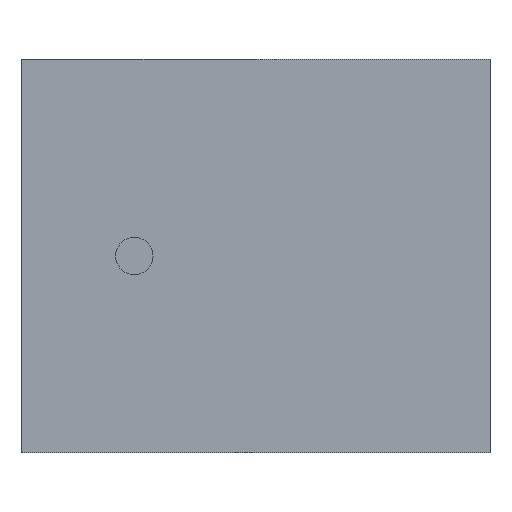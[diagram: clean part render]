
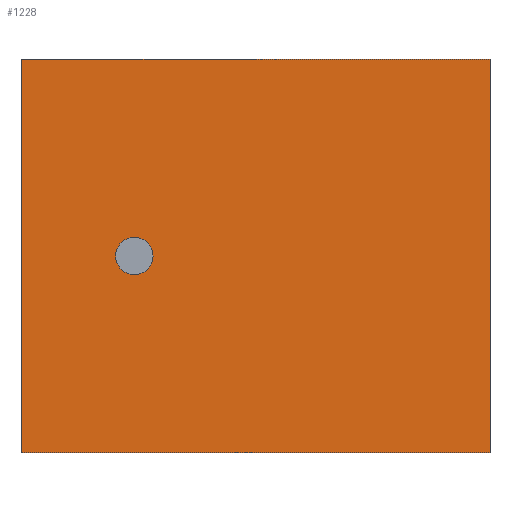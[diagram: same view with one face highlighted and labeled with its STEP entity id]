
A CAD part, front view. The second image highlights one B-rep face of the part: STEP entity #1228.
In plain terms, the highlighted planar face has unit normal (0, -1, 0).
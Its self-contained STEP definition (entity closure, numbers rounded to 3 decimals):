
#9 = VERTEX_POINT ( 'NONE', #636 ) ;
#43 = VERTEX_POINT ( 'NONE', #1081 ) ;
#45 = VERTEX_POINT ( 'NONE', #964 ) ;
#64 = DIRECTION ( 'NONE',  ( 0., 0., -1. ) ) ;
#150 = DIRECTION ( 'NONE',  ( 0., 0., -1. ) ) ;
#161 = CARTESIAN_POINT ( 'NONE',  ( 0., 0., 42. ) ) ;
#329 = EDGE_LOOP ( 'NONE', ( #1362, #1336 ) ) ;
#365 = CARTESIAN_POINT ( 'NONE',  ( 0., 0., 0. ) ) ;
#387 = AXIS2_PLACEMENT_3D ( 'NONE', #1418, #1449, #1456 ) ;
#401 = LINE ( 'NONE', #661, #415 ) ;
#415 = VECTOR ( 'NONE', #1021, 1000. ) ;
#472 = CARTESIAN_POINT ( 'NONE',  ( 12., 0., 21. ) ) ;
#521 = EDGE_CURVE ( 'NONE', #931, #623, #1126, .T. ) ;
#527 = LINE ( 'NONE', #751, #1000 ) ;
#539 = FACE_OUTER_BOUND ( 'NONE', #1748, .T. ) ;
#614 = CARTESIAN_POINT ( 'NONE',  ( 12., 0., 19. ) ) ;
#623 = VERTEX_POINT ( 'NONE', #365 ) ;
#636 = CARTESIAN_POINT ( 'NONE',  ( 50., 0., 0. ) ) ;
#637 = DIRECTION ( 'NONE',  ( 0., 0., -1. ) ) ;
#638 = DIRECTION ( 'NONE',  ( 0., -1., 0. ) ) ;
#661 = CARTESIAN_POINT ( 'NONE',  ( 0., 0., 42. ) ) ;
#696 = EDGE_CURVE ( 'NONE', #820, #43, #954, .T. ) ;
#751 = CARTESIAN_POINT ( 'NONE',  ( 0., 0., 0. ) ) ;
#776 = DIRECTION ( 'NONE',  ( 1., 0., 0. ) ) ;
#791 = AXIS2_PLACEMENT_3D ( 'NONE', #1086, #1088, #1090 ) ;
#799 = VECTOR ( 'NONE', #64, 1000. ) ;
#820 = VERTEX_POINT ( 'NONE', #614 ) ;
#860 = EDGE_CURVE ( 'NONE', #623, #9, #527, .T. ) ;
#913 = CARTESIAN_POINT ( 'NONE',  ( 0., 0., 42. ) ) ;
#931 = VERTEX_POINT ( 'NONE', #913 ) ;
#932 = CARTESIAN_POINT ( 'NONE',  ( 50., 0., 42. ) ) ;
#949 = EDGE_CURVE ( 'NONE', #45, #9, #1353, .T. ) ;
#954 = CIRCLE ( 'NONE', #1201, 2. ) ;
#964 = CARTESIAN_POINT ( 'NONE',  ( 50., 0., 42. ) ) ;
#979 = ORIENTED_EDGE ( 'NONE', *, *, #521, .T. ) ;
#1000 = VECTOR ( 'NONE', #776, 1000. ) ;
#1021 = DIRECTION ( 'NONE',  ( 1., 0., 0. ) ) ;
#1081 = CARTESIAN_POINT ( 'NONE',  ( 12., 0., 23. ) ) ;
#1086 = CARTESIAN_POINT ( 'NONE',  ( 12., 0., 21. ) ) ;
#1087 = ORIENTED_EDGE ( 'NONE', *, *, #1100, .F. ) ;
#1088 = DIRECTION ( 'NONE',  ( 0., -1., 0. ) ) ;
#1090 = DIRECTION ( 'NONE',  ( 0., 0., -1. ) ) ;
#1100 = EDGE_CURVE ( 'NONE', #931, #45, #401, .T. ) ;
#1126 = LINE ( 'NONE', #161, #799 ) ;
#1140 = EDGE_CURVE ( 'NONE', #43, #820, #1451, .T. ) ;
#1181 = ORIENTED_EDGE ( 'NONE', *, *, #949, .F. ) ;
#1201 = AXIS2_PLACEMENT_3D ( 'NONE', #472, #638, #637 ) ;
#1228 = ADVANCED_FACE ( 'NONE', ( #1476, #539 ), #1399, .F. ) ;
#1273 = ORIENTED_EDGE ( 'NONE', *, *, #860, .T. ) ;
#1308 = VECTOR ( 'NONE', #150, 1000. ) ;
#1336 = ORIENTED_EDGE ( 'NONE', *, *, #1140, .F. ) ;
#1353 = LINE ( 'NONE', #932, #1308 ) ;
#1362 = ORIENTED_EDGE ( 'NONE', *, *, #696, .F. ) ;
#1399 = PLANE ( 'NONE',  #387 ) ;
#1418 = CARTESIAN_POINT ( 'NONE',  ( 0., 0., 42. ) ) ;
#1449 = DIRECTION ( 'NONE',  ( 0., 1., 0. ) ) ;
#1451 = CIRCLE ( 'NONE', #791, 2. ) ;
#1456 = DIRECTION ( 'NONE',  ( 0., 0., 1. ) ) ;
#1476 = FACE_BOUND ( 'NONE', #329, .T. ) ;
#1748 = EDGE_LOOP ( 'NONE', ( #1273, #1181, #1087, #979 ) ) ;
